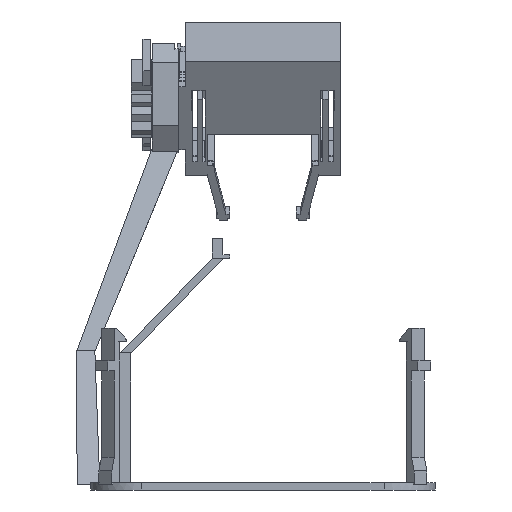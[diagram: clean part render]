
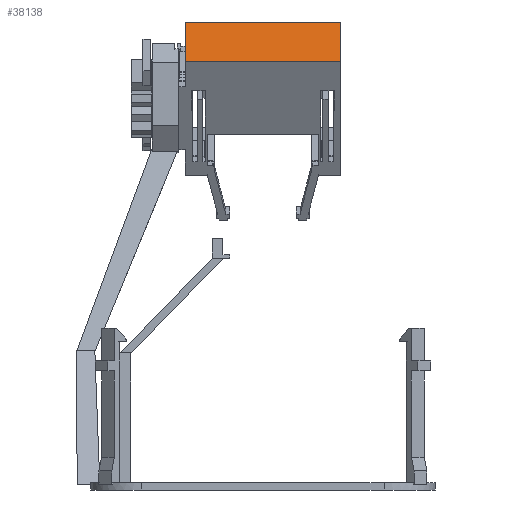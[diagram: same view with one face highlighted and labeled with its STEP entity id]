
A CAD part, left-side view. The second image highlights one B-rep face of the part: STEP entity #38138.
In plain terms, the highlighted planar face has unit normal (-0.5, 0, 0.866).
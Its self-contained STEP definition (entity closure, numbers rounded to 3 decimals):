
#18879 = PLANE('',#18880);
#18880 = AXIS2_PLACEMENT_3D('',#18881,#18882,#18883);
#18881 = CARTESIAN_POINT('',(72.221,0.,82.624));
#18882 = DIRECTION('',(0.866,0.,0.5));
#18883 = DIRECTION('',(0.,1.,0.));
#18907 = PLANE('',#18908);
#18908 = AXIS2_PLACEMENT_3D('',#18909,#18910,#18911);
#18909 = CARTESIAN_POINT('',(64.971,-17.1,95.181));
#18910 = DIRECTION('',(-0.,1.,0.));
#18911 = DIRECTION('',(0.5,0.,-0.866));
#19053 = VERTEX_POINT('',#19054);
#19054 = CARTESIAN_POINT('',(64.971,-17.1,95.181));
#19075 = EDGE_CURVE('',#19076,#19053,#19078,.T.);
#19076 = VERTEX_POINT('',#19077);
#19077 = CARTESIAN_POINT('',(79.911,-17.1,103.807));
#19078 = SURFACE_CURVE('',#19079,(#19083,#19090),.PCURVE_S1.);
#19079 = LINE('',#19080,#19081);
#19080 = CARTESIAN_POINT('',(79.911,-17.1,103.807));
#19081 = VECTOR('',#19082,1.);
#19082 = DIRECTION('',(-0.866,0.,-0.5));
#19083 = PCURVE('',#18907,#19084);
#19084 = DEFINITIONAL_REPRESENTATION('',(#19085),#19089);
#19085 = LINE('',#19086,#19087);
#19086 = CARTESIAN_POINT('',(0.,-17.252));
#19087 = VECTOR('',#19088,1.);
#19088 = DIRECTION('',(0.,1.));
#19089 = ( GEOMETRIC_REPRESENTATION_CONTEXT(2) 
PARAMETRIC_REPRESENTATION_CONTEXT() REPRESENTATION_CONTEXT('2D SPACE',''
  ) );
#19090 = PCURVE('',#19091,#19096);
#19091 = PLANE('',#19092);
#19092 = AXIS2_PLACEMENT_3D('',#19093,#19094,#19095);
#19093 = CARTESIAN_POINT('',(64.971,17.1,95.181));
#19094 = DIRECTION('',(0.5,0.,-0.866));
#19095 = DIRECTION('',(0.,-1.,0.));
#19096 = DEFINITIONAL_REPRESENTATION('',(#19097),#19101);
#19097 = LINE('',#19098,#19099);
#19098 = CARTESIAN_POINT('',(34.2,-17.252));
#19099 = VECTOR('',#19100,1.);
#19100 = DIRECTION('',(0.,1.));
#19101 = ( GEOMETRIC_REPRESENTATION_CONTEXT(2) 
PARAMETRIC_REPRESENTATION_CONTEXT() REPRESENTATION_CONTEXT('2D SPACE',''
  ) );
#19119 = PLANE('',#19120);
#19120 = AXIS2_PLACEMENT_3D('',#19121,#19122,#19123);
#19121 = CARTESIAN_POINT('',(94.411,-17.1,78.693));
#19122 = DIRECTION('',(0.866,0.,0.5));
#19123 = DIRECTION('',(-0.5,0.,0.866));
#34547 = PLANE('',#34548);
#34548 = AXIS2_PLACEMENT_3D('',#34549,#34550,#34551);
#34549 = CARTESIAN_POINT('',(79.471,17.1,70.067));
#34550 = DIRECTION('',(0.,-1.,0.));
#34551 = DIRECTION('',(-0.5,0.,0.866));
#34584 = VERTEX_POINT('',#34585);
#34585 = CARTESIAN_POINT('',(79.911,17.1,103.807));
#34608 = EDGE_CURVE('',#34584,#34609,#34611,.T.);
#34609 = VERTEX_POINT('',#34610);
#34610 = CARTESIAN_POINT('',(64.971,17.1,95.181));
#34611 = SURFACE_CURVE('',#34612,(#34616,#34623),.PCURVE_S1.);
#34612 = LINE('',#34613,#34614);
#34613 = CARTESIAN_POINT('',(79.911,17.1,103.807));
#34614 = VECTOR('',#34615,1.);
#34615 = DIRECTION('',(-0.866,0.,-0.5));
#34616 = PCURVE('',#34547,#34617);
#34617 = DEFINITIONAL_REPRESENTATION('',(#34618),#34622);
#34618 = LINE('',#34619,#34620);
#34619 = CARTESIAN_POINT('',(29.,-17.252));
#34620 = VECTOR('',#34621,1.);
#34621 = DIRECTION('',(0.,1.));
#34622 = ( GEOMETRIC_REPRESENTATION_CONTEXT(2) 
PARAMETRIC_REPRESENTATION_CONTEXT() REPRESENTATION_CONTEXT('2D SPACE',''
  ) );
#34623 = PCURVE('',#19091,#34624);
#34624 = DEFINITIONAL_REPRESENTATION('',(#34625),#34629);
#34625 = LINE('',#34626,#34627);
#34626 = CARTESIAN_POINT('',(0.,-17.252));
#34627 = VECTOR('',#34628,1.);
#34628 = DIRECTION('',(0.,1.));
#34629 = ( GEOMETRIC_REPRESENTATION_CONTEXT(2) 
PARAMETRIC_REPRESENTATION_CONTEXT() REPRESENTATION_CONTEXT('2D SPACE',''
  ) );
#38118 = EDGE_CURVE('',#34584,#19076,#38119,.T.);
#38119 = SURFACE_CURVE('',#38120,(#38124,#38131),.PCURVE_S1.);
#38120 = LINE('',#38121,#38122);
#38121 = CARTESIAN_POINT('',(79.911,17.1,103.807));
#38122 = VECTOR('',#38123,1.);
#38123 = DIRECTION('',(0.,-1.,0.));
#38124 = PCURVE('',#19119,#38125);
#38125 = DEFINITIONAL_REPRESENTATION('',(#38126),#38130);
#38126 = LINE('',#38127,#38128);
#38127 = CARTESIAN_POINT('',(29.,-34.2));
#38128 = VECTOR('',#38129,1.);
#38129 = DIRECTION('',(0.,1.));
#38130 = ( GEOMETRIC_REPRESENTATION_CONTEXT(2) 
PARAMETRIC_REPRESENTATION_CONTEXT() REPRESENTATION_CONTEXT('2D SPACE',''
  ) );
#38131 = PCURVE('',#19091,#38132);
#38132 = DEFINITIONAL_REPRESENTATION('',(#38133),#38137);
#38133 = LINE('',#38134,#38135);
#38134 = CARTESIAN_POINT('',(0.,-17.252));
#38135 = VECTOR('',#38136,1.);
#38136 = DIRECTION('',(1.,0.));
#38137 = ( GEOMETRIC_REPRESENTATION_CONTEXT(2) 
PARAMETRIC_REPRESENTATION_CONTEXT() REPRESENTATION_CONTEXT('2D SPACE',''
  ) );
#38138 = ADVANCED_FACE('',(#38139),#19091,.F.);
#38139 = FACE_BOUND('',#38140,.F.);
#38140 = EDGE_LOOP('',(#38141,#38162,#38163,#38164));
#38141 = ORIENTED_EDGE('',*,*,#38142,.T.);
#38142 = EDGE_CURVE('',#19053,#34609,#38143,.T.);
#38143 = SURFACE_CURVE('',#38144,(#38148,#38155),.PCURVE_S1.);
#38144 = LINE('',#38145,#38146);
#38145 = CARTESIAN_POINT('',(64.971,-17.1,95.181));
#38146 = VECTOR('',#38147,1.);
#38147 = DIRECTION('',(0.,1.,0.));
#38148 = PCURVE('',#19091,#38149);
#38149 = DEFINITIONAL_REPRESENTATION('',(#38150),#38154);
#38150 = LINE('',#38151,#38152);
#38151 = CARTESIAN_POINT('',(34.2,0.));
#38152 = VECTOR('',#38153,1.);
#38153 = DIRECTION('',(-1.,0.));
#38154 = ( GEOMETRIC_REPRESENTATION_CONTEXT(2) 
PARAMETRIC_REPRESENTATION_CONTEXT() REPRESENTATION_CONTEXT('2D SPACE',''
  ) );
#38155 = PCURVE('',#18879,#38156);
#38156 = DEFINITIONAL_REPRESENTATION('',(#38157),#38161);
#38157 = LINE('',#38158,#38159);
#38158 = CARTESIAN_POINT('',(-17.1,14.5));
#38159 = VECTOR('',#38160,1.);
#38160 = DIRECTION('',(1.,0.));
#38161 = ( GEOMETRIC_REPRESENTATION_CONTEXT(2) 
PARAMETRIC_REPRESENTATION_CONTEXT() REPRESENTATION_CONTEXT('2D SPACE',''
  ) );
#38162 = ORIENTED_EDGE('',*,*,#34608,.F.);
#38163 = ORIENTED_EDGE('',*,*,#38118,.T.);
#38164 = ORIENTED_EDGE('',*,*,#19075,.T.);
